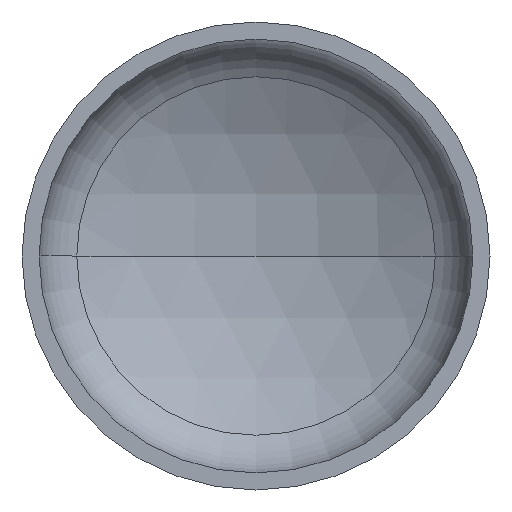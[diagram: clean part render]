
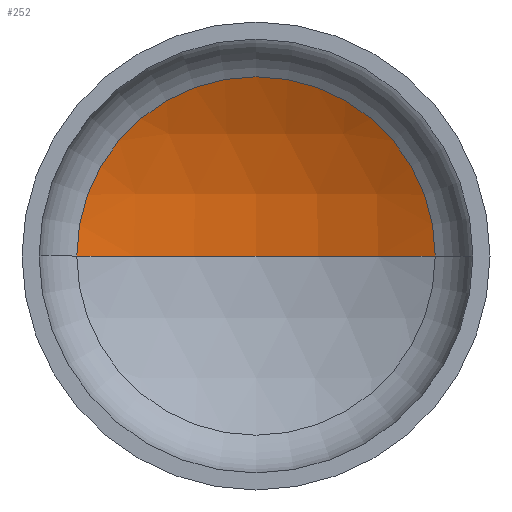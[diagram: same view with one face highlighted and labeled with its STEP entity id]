
A CAD part, front view. The second image highlights one B-rep face of the part: STEP entity #252.
In plain terms, the highlighted spherical face has radius 284 mm.
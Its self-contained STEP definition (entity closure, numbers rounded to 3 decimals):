
#7 = EDGE_LOOP ( 'NONE', ( #135, #86, #64 ) ) ;
#30 = DIRECTION ( 'NONE',  ( 0., 0., -1. ) ) ;
#36 = VERTEX_POINT ( 'NONE', #250 ) ;
#56 = AXIS2_PLACEMENT_3D ( 'NONE', #181, #30, #72 ) ;
#62 = VERTEX_POINT ( 'NONE', #342 ) ;
#64 = ORIENTED_EDGE ( 'NONE', *, *, #174, .T. ) ;
#72 = DIRECTION ( 'NONE',  ( -1., 0., 0. ) ) ;
#83 = AXIS2_PLACEMENT_3D ( 'NONE', #262, #261, #276 ) ;
#85 = AXIS2_PLACEMENT_3D ( 'NONE', #213, #224, #221 ) ;
#86 = ORIENTED_EDGE ( 'NONE', *, *, #176, .T. ) ;
#93 = AXIS2_PLACEMENT_3D ( 'NONE', #335, #196, #354 ) ;
#135 = ORIENTED_EDGE ( 'NONE', *, *, #177, .F. ) ;
#174 = EDGE_CURVE ( 'NONE', #331, #36, #363, .T. ) ;
#176 = EDGE_CURVE ( 'NONE', #62, #331, #308, .T. ) ;
#177 = EDGE_CURVE ( 'NONE', #62, #36, #251, .T. ) ;
#181 = CARTESIAN_POINT ( 'NONE',  ( 0., -160.96, 0. ) ) ;
#196 = DIRECTION ( 'NONE',  ( 0., -1., 0. ) ) ;
#213 = CARTESIAN_POINT ( 'NONE',  ( 0., -160.96, 0. ) ) ;
#221 = DIRECTION ( 'NONE',  ( -1., 0., 0. ) ) ;
#224 = DIRECTION ( 'NONE',  ( 0., 0., -1. ) ) ;
#243 = FACE_OUTER_BOUND ( 'NONE', #7, .T. ) ;
#250 = CARTESIAN_POINT ( 'NONE',  ( -136.171, 88.266, 0. ) ) ;
#251 = CIRCLE ( 'NONE', #83, 284. ) ;
#252 = ADVANCED_FACE ( 'NONE', ( #243 ), #345, .F. ) ;
#261 = DIRECTION ( 'NONE',  ( 0., 0., 1. ) ) ;
#262 = CARTESIAN_POINT ( 'NONE',  ( 0., -160.96, 0. ) ) ;
#276 = DIRECTION ( 'NONE',  ( 1., 0., 0. ) ) ;
#308 = CIRCLE ( 'NONE', #85, 284. ) ;
#331 = VERTEX_POINT ( 'NONE', #355 ) ;
#335 = CARTESIAN_POINT ( 'NONE',  ( 0., 88.266, 0. ) ) ;
#342 = CARTESIAN_POINT ( 'NONE',  ( 0., 123.04, 0. ) ) ;
#345 = SPHERICAL_SURFACE ( 'NONE', #56, 284. ) ;
#354 = DIRECTION ( 'NONE',  ( 1., 0., 0. ) ) ;
#355 = CARTESIAN_POINT ( 'NONE',  ( 136.171, 88.266, 0. ) ) ;
#363 = CIRCLE ( 'NONE', #93, 136.171 ) ;
